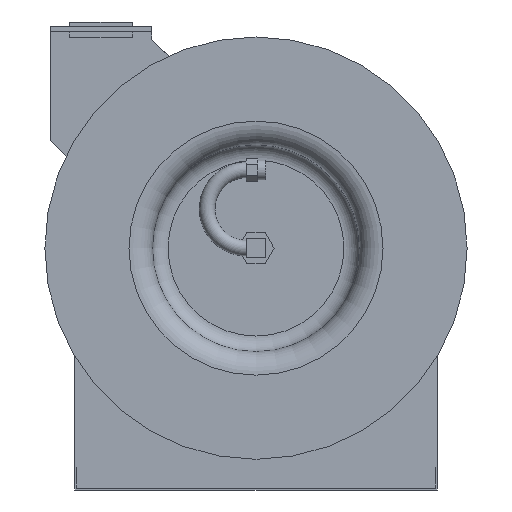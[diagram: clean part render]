
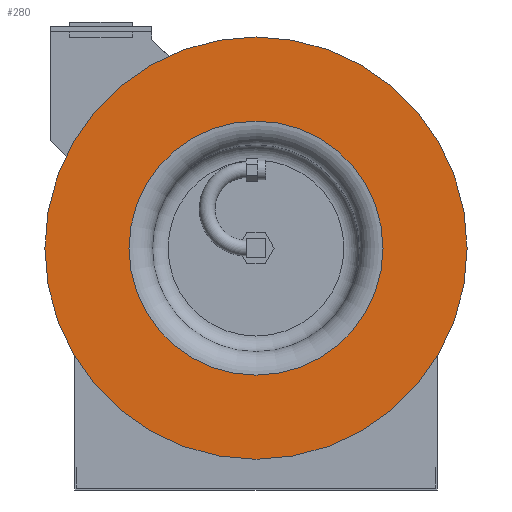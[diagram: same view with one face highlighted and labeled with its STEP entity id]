
A CAD part, left-side view. The second image highlights one B-rep face of the part: STEP entity #280.
In plain terms, the highlighted planar face has unit normal (-1, 0, 0).
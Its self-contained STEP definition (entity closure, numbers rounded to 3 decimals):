
#280 = ADVANCED_FACE( '', ( #625, #626 ), #627, .T. );
#625 = FACE_OUTER_BOUND( '', #1024, .T. );
#626 = FACE_BOUND( '', #1025, .T. );
#627 = PLANE( '', #1026 );
#1024 = EDGE_LOOP( '', ( #1744 ) );
#1025 = EDGE_LOOP( '', ( #1745 ) );
#1026 = AXIS2_PLACEMENT_3D( '', #1746, #1747, #1748 );
#1744 = ORIENTED_EDGE( '', *, *, #2390, .T. );
#1745 = ORIENTED_EDGE( '', *, *, #2391, .F. );
#1746 = CARTESIAN_POINT( '', ( -143.307, 0., 103.124 ) );
#1747 = DIRECTION( '', ( -1., 0., 0. ) );
#1748 = DIRECTION( '', ( 0., 0., 1. ) );
#2390 = EDGE_CURVE( '', #2903, #2903, #2904, .T. );
#2391 = EDGE_CURVE( '', #2905, #2905, #2906, .T. );
#2903 = VERTEX_POINT( '', #3635 );
#2904 = CIRCLE( '', #3636, 171.45 );
#2905 = VERTEX_POINT( '', #3637 );
#2906 = CIRCLE( '', #3638, 103.124 );
#3635 = CARTESIAN_POINT( '', ( -143.307, 0., 171.45 ) );
#3636 = AXIS2_PLACEMENT_3D( '', #4061, #4062, #4063 );
#3637 = CARTESIAN_POINT( '', ( -143.307, 0., 103.124 ) );
#3638 = AXIS2_PLACEMENT_3D( '', #4064, #4065, #4066 );
#4061 = CARTESIAN_POINT( '', ( -143.307, 0., 0. ) );
#4062 = DIRECTION( '', ( -1., 0., 0. ) );
#4063 = DIRECTION( '', ( 0., 0., 1. ) );
#4064 = CARTESIAN_POINT( '', ( -143.307, 0., 0. ) );
#4065 = DIRECTION( '', ( -1., 0., 0. ) );
#4066 = DIRECTION( '', ( 0., 0., 1. ) );
